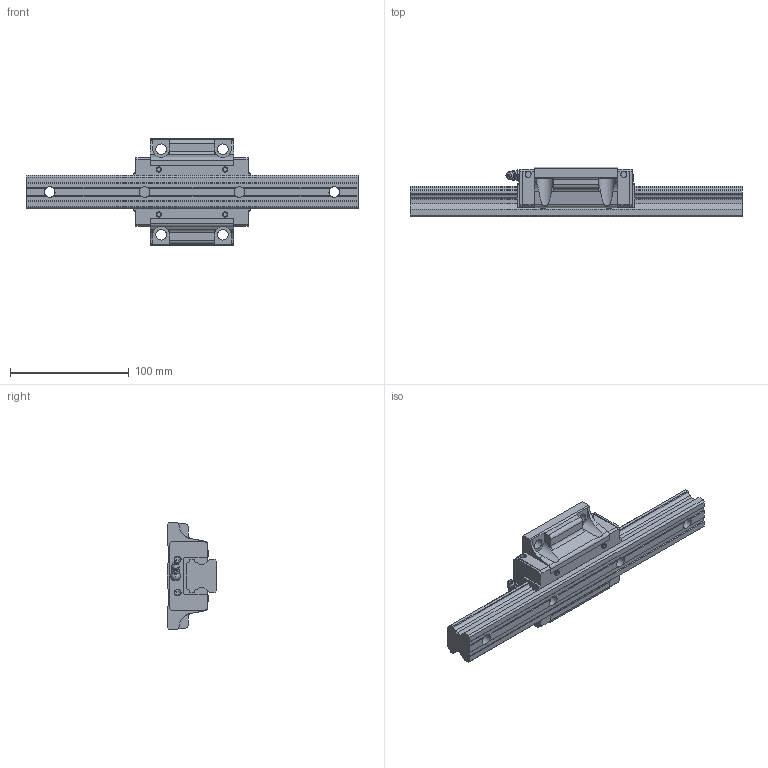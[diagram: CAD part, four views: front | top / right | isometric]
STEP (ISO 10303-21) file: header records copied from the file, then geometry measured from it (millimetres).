
FILE_DESCRIPTION(/* description */ ('STEP AP203'),/* implementation_level */ '2;1');
FILE_NAME(/* name */ 'HSR30M1B1SS-280L_G20_0_B-M6F_90-55_0_0_0',/* time_stamp */ '2024-05-23T06:14:23+02:00',/* author */ ('License CC BY-ND 4.0'),/* organization */ ('CADENAS'),/* preprocessor_version */ 'ST-DEVELOPER v19.3',/* originating_system */ 'PARTsolutions',/* authorisation */ ' ');
FILE_SCHEMA (('CONFIG_CONTROL_DESIGN','FEATURE_BASED_PROCESS_PLANNING','AP242_MANAGED_MODEL_BASED_3D_ENGINEERING_MIM_LF { 1 0 10303 442 3 1 4 }'));
Length unit declared in the file: millimetre
Products named in the file (4): HSR30M1B1SS-280L_G20_0_B-M6F_90-55_0_0_0; HSR30M1B128020 Rail; HSR30M1BSSB-M6F Slider; hsr_ftht_B-M6F_grease_nipple_joint
Assembly tree (3 placements, depth 2):
  HSR30M1B1SS-280L_G20_0_B-M6F_90-55_0_0_0
    HSR30M1B128020 Rail
    HSR30M1BSSB-M6F Slider
    hsr_ftht_B-M6F_grease_nipple_joint
Bounding box: 280 x 42 x 90 mm (x, y, z)
Volume: 339659.3 mm3; surface area: 67886.5 mm2
Topology: 3 solids, 3 shells, 302 faces, 822 edges, 539 vertices
Faces by surface type: plane 222, cylinder 54, cone 13, torus 10, sphere 3
Full cylindrical faces by diameter (mm): 4.37 x4, 4.917 x2, 5.2 x4, 5.7 x4, 6 x1, 8 x1, 9 x8, 14 x4
Entity records: 9305 total; most frequent: CARTESIAN_POINT 1749, ORIENTED_EDGE 1516, DIRECTION 1504, EDGE_CURVE 758, LINE 552, VECTOR 552, VERTEX_POINT 525, AXIS2_PLACEMENT_3D 476
